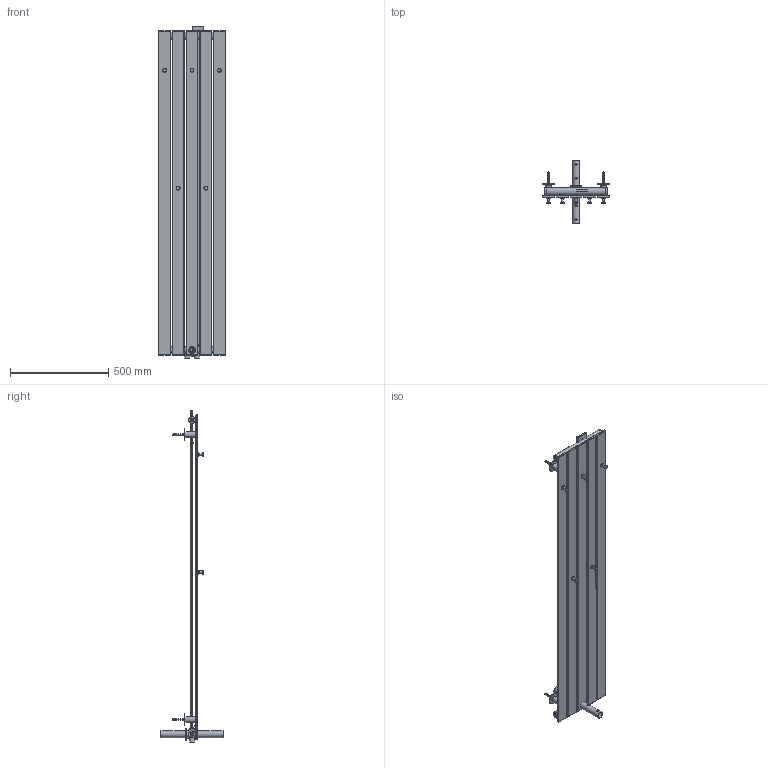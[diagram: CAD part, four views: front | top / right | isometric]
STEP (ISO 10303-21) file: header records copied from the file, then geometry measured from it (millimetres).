
FILE_DESCRIPTION( ( 'Unknown' ), '1' );
FILE_NAME( 'D:/Alplast sp. j/Witryna zespoBu - Projekty/Archiwum/Grzejniki Archiwum/Projekty/DESIGN PROGRAM/CALLE/CALE 1.stp', 'Unknown', ( 'Unknown' ), ( 'Unknown' ), 'PSStep 10.1', 'Unknown', ' ' );
FILE_SCHEMA( ( 'AUTOMOTIVE_DESIGN { 1 0 10303 214 1 1 1 1 }' ) );
Length unit declared in the file: millimetre
Products named in the file (27): Assem1; Mocowanie Szerokie L60; MOCOWANIE SZEROKIE L60-01; MOCOWANIE FASOLKA; MOCOWANIE SZEROKIE L60-03; MOCOWANIE TALERZYK; ko³ek rozporowy; wkrêt konsoli; wkrêt ustalaj¹cy; CALLE kolektor 340 D-50; mufka; mufka-oa0; Zaslepka fi 35 z gwintem ; Zaslepka fi 35 z gwintem -oa1; Zaslepka fi 35 z gwintem -oa2; Zaslepka fi 35 z gwintem -oa3; rura 60x10  1650; rura 60x10  1650-oa4; rura 60x10  1650-oa5; rura 60x10  1650-oa6; rura 60x10  1650-oa7; CALLE kolektor 340; wieszak staly; wieszak staly-oa8; wieszak staly-oa9; wieszak staly-oa10; wieszak staly-oa11
Bounding box: 340 x 316 x 1689.5 mm (x, y, z)
Volume: 3546111.9 mm3; surface area: 4899859.7 mm2
Topology: 78 solids, 78 shells, 1130 faces, 2682 edges, 1660 vertices
Faces by surface type: plane 402, cylinder 398, cone 136, torus 90, sphere 80, extrusion 20, bspline 4
Full cylindrical faces by diameter (mm): 4 x6, 4.5 x6, 4.807 x6, 4.917 x6, 5 x6, 6.023 x20, 8 x32, 9 x4, 12 x10, 15 x4, 17 x6, 18.631 x8, 19 x4, 20 x20, 20.5 x6, 22 x6, 22.7 x6, 23 x6, 25 x12, 29 x6, 29.2 x6, 30 x6, 32 x4, 35 x12, 60 x6
Entity records: 19448 total; most frequent: CARTESIAN_POINT 7333, DIRECTION 1828, ORIENTED_EDGE 1386, AXIS2_PLACEMENT_3D 795, EDGE_CURVE 693, EDGE_LOOP 658, FACE_OUTER_BOUND 525, VERTEX_POINT 502
